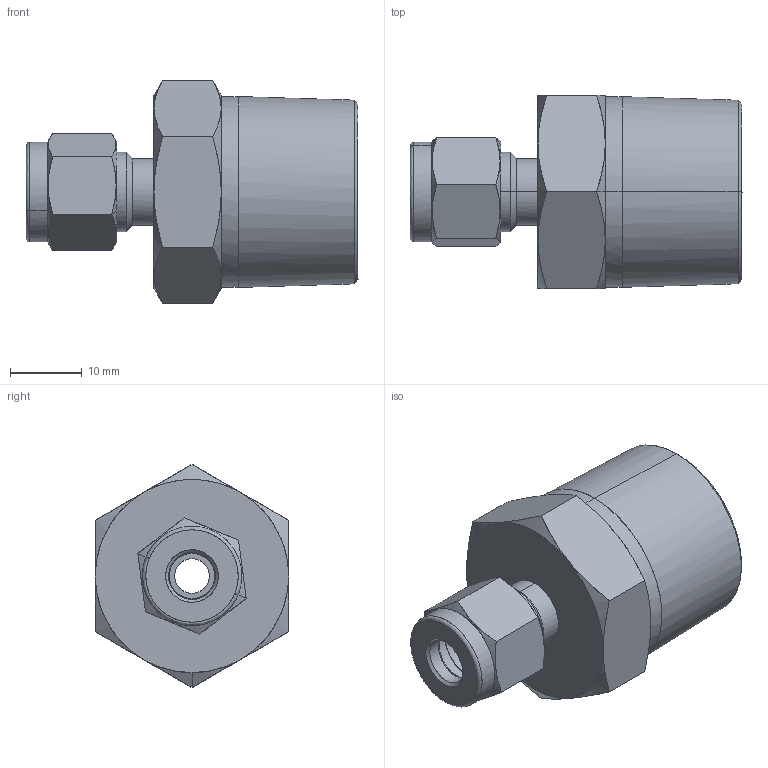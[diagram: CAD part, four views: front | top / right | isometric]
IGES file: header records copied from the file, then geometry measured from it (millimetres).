
Start section: Comment
Global section: file name: SMC4-12R.igs; native system:  By UGS Corp.; preprocessor: XPlus GENERIC/IGES 3.0; author: Author; organization: Title; date: 20100113.145738; units: millimetre
Bounding box: 46.38 x 27 x 31.18 mm (x, y, z)
Surface area: 5872 mm2 (no closed solid volume)
Topology: 0 solids, 0 shells, 95 faces, 540 edges, 535 vertices
Faces by surface type: bspline 95
